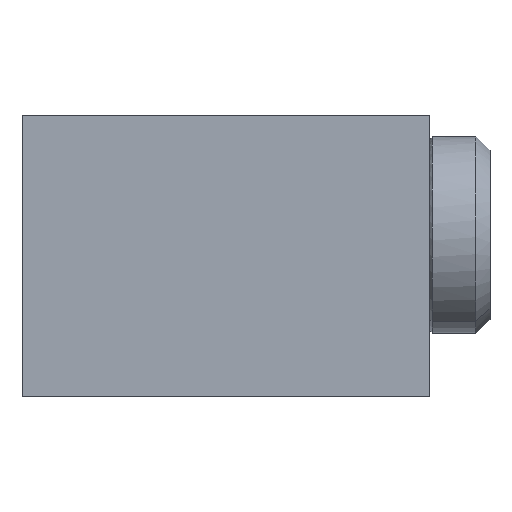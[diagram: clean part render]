
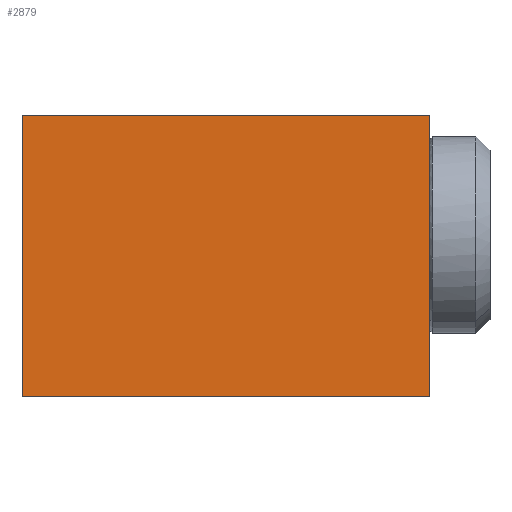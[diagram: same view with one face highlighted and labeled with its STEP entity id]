
A CAD part, front view. The second image highlights one B-rep face of the part: STEP entity #2879.
In plain terms, the highlighted planar face has unit normal (0, -1, 0).
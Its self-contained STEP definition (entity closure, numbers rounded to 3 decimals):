
#2662=CARTESIAN_POINT('Vertex',(14.5,0.,-5.8)) ;
#2665=CARTESIAN_POINT('Line Origine',(0.,0.,-5.8)) ;
#2669=CARTESIAN_POINT('Vertex',(-14.5,0.,-5.8)) ;
#2689=CARTESIAN_POINT('Line Origine',(-14.5,0.,4.2)) ;
#2693=CARTESIAN_POINT('Vertex',(-14.5,0.,14.2)) ;
#2767=CARTESIAN_POINT('Line Origine',(0.,0.,14.2)) ;
#2771=CARTESIAN_POINT('Vertex',(14.5,0.,14.2)) ;
#2791=CARTESIAN_POINT('Line Origine',(14.5,0.,4.2)) ;
#2868=CARTESIAN_POINT('Axis2P3D Location',(0.,0.,0.)) ;
#2666=DIRECTION('Vector Direction',(-1.,0.,0.)) ;
#2690=DIRECTION('Vector Direction',(0.,0.,1.)) ;
#2768=DIRECTION('Vector Direction',(1.,0.,0.)) ;
#2792=DIRECTION('Vector Direction',(0.,0.,-1.)) ;
#2869=DIRECTION('Axis2P3D Direction',(0.,1.,0.)) ;
#2870=DIRECTION('Axis2P3D XDirection',(-1.,0.,0.)) ;
#2871=AXIS2_PLACEMENT_3D('Plane Axis2P3D',#2868,#2869,#2870) ;
#2874=ORIENTED_EDGE('',*,*,#2795,.F.) ;
#2875=ORIENTED_EDGE('',*,*,#2773,.F.) ;
#2876=ORIENTED_EDGE('',*,*,#2695,.F.) ;
#2877=ORIENTED_EDGE('',*,*,#2671,.F.) ;
#2667=VECTOR('Line Direction',#2666,1.) ;
#2691=VECTOR('Line Direction',#2690,1.) ;
#2769=VECTOR('Line Direction',#2768,1.) ;
#2793=VECTOR('Line Direction',#2792,1.) ;
#2879=ADVANCED_FACE('',(#2878),#2872,.F.) ;
#2671=EDGE_CURVE('',#2663,#2670,#2668,.T.) ;
#2695=EDGE_CURVE('',#2670,#2694,#2692,.T.) ;
#2773=EDGE_CURVE('',#2694,#2772,#2770,.T.) ;
#2795=EDGE_CURVE('',#2772,#2663,#2794,.T.) ;
#2873=EDGE_LOOP('',(#2874,#2875,#2876,#2877)) ;
#2878=FACE_OUTER_BOUND('',#2873,.T.) ;
#2668=LINE('Line',#2665,#2667) ;
#2692=LINE('Line',#2689,#2691) ;
#2770=LINE('Line',#2767,#2769) ;
#2794=LINE('Line',#2791,#2793) ;
#2872=PLANE('Plane',#2871) ;
#2663=VERTEX_POINT('',#2662) ;
#2670=VERTEX_POINT('',#2669) ;
#2694=VERTEX_POINT('',#2693) ;
#2772=VERTEX_POINT('',#2771) ;
